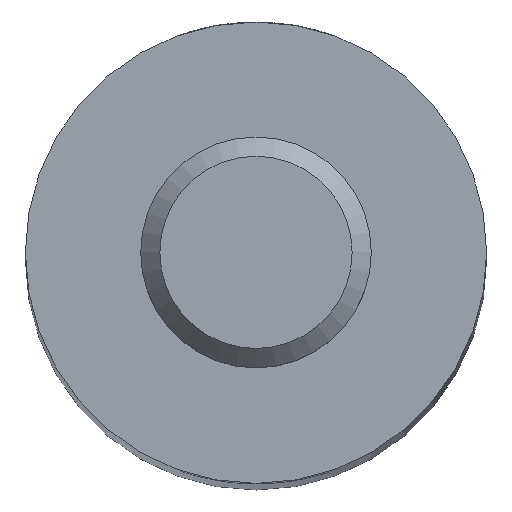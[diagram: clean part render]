
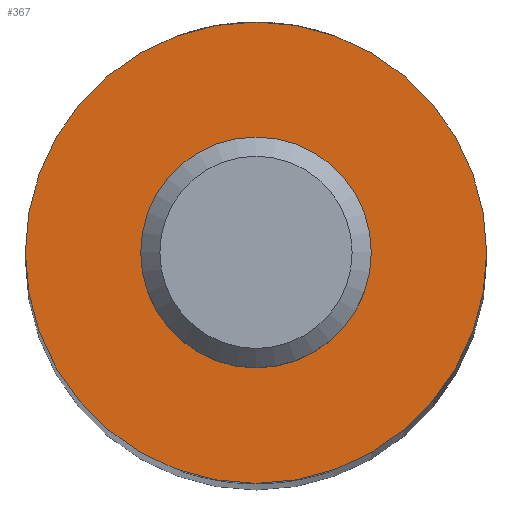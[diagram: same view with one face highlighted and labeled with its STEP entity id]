
A CAD part, top view. The second image highlights one B-rep face of the part: STEP entity #367.
In plain terms, the highlighted planar face has unit normal (0, 0, 1).
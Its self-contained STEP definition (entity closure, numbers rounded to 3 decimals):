
#77=CARTESIAN_POINT('',(6.,0.,100.0));
#78=VERTEX_POINT('',#77);
#79=CARTESIAN_POINT('',(0.0,0.0,100.0));
#80=DIRECTION('',(0.0,0.0,-1.0));
#81=DIRECTION('',(-1.0,0.0,0.0));
#82=AXIS2_PLACEMENT_3D('',#79,#80,#81);
#83=CIRCLE('',#82,6.);
#84=EDGE_CURVE('',#78,#78,#83,.T.);
#332=CARTESIAN_POINT('',(2.5,0.,100.0));
#333=VERTEX_POINT('',#332);
#334=CARTESIAN_POINT('',(0.0,0.0,100.0));
#335=DIRECTION('',(0.0,0.0,1.0));
#336=DIRECTION('',(-1.0,0.0,0.0));
#337=AXIS2_PLACEMENT_3D('',#334,#335,#336);
#338=CIRCLE('',#337,2.5);
#339=EDGE_CURVE('',#333,#333,#338,.T.);
#356=CARTESIAN_POINT('',(0.0,0.0,100.0));
#357=DIRECTION('',(0.0,0.0,1.0));
#358=DIRECTION('',(1.0,0.0,0.0));
#359=AXIS2_PLACEMENT_3D('',#356,#357,#358);
#360=PLANE('',#359);
#361=ORIENTED_EDGE('',*,*,#84,.F.);
#362=EDGE_LOOP('',(#361));
#363=FACE_OUTER_BOUND('',#362,.T.);
#364=ORIENTED_EDGE('',*,*,#339,.F.);
#365=EDGE_LOOP('',(#364));
#366=FACE_BOUND('',#365,.T.);
#367=ADVANCED_FACE('',(#363,#366),#360,.T.);
